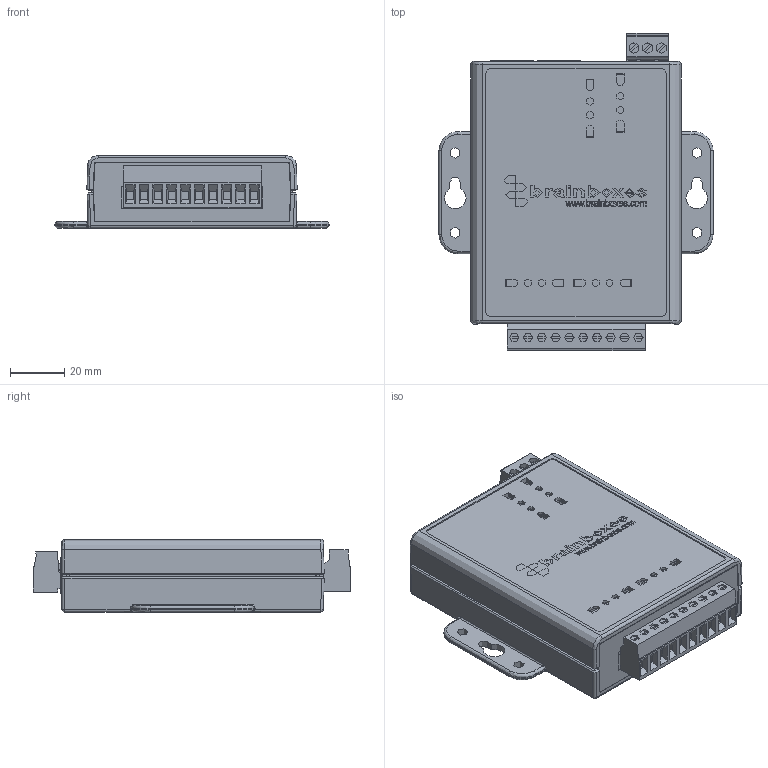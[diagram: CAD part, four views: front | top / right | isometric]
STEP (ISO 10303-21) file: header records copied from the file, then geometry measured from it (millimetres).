
FILE_DESCRIPTION(('STEP AP214'),'1');
FILE_NAME('ED-204 Cased PCB 3D Step.step','2020-12-17T14:14:31',(' '),(' '),'Spatial InterOp 3D','XD3DPlugin XRACreate',' ');
FILE_SCHEMA(('automotive_design'));
Length unit declared in the file: millimetre
Products named in the file (54): Submodel-Input_S\SMD_ELEC_D.xtd; SMD_ELEC_D; Submodel-7547UF50V_part_simplified_SMD_ELEC_D; DesignRootModel; Submodel-Input_S\50HEA2X3.xtd; 50HEA2X3; Submodel-50HEA3X2_part_simplified_H100MIL2X3; Submodel-Input_S\82HEA5MMTBX3.xtd; 82HEA5MMTBX3; Submodel-82HEA5MMTBX3_part_simplified_TB_5MM_3; Submodel-Input_S\82HEA5MMTBX10.xtd; 82HEA5MMTBX10; Submodel-82HEA5MMTBX10_part_simplified_TB_5MM_10; Submodel-Input_S\50HEA3X1.xtd; 50HEA3X1; Submodel-50HEA3X1_part_simplified_H100MIL1X3; Submodel-Input_S\00MAGJACKILED.xtd; 00MAGJACKILED; Submodel-00MAGJACKILED_part_simplified_MAGJACK_LEDS; Submodel-Input_S\6610UH5A5.xtd; 6610UH5A5; Submodel-6610UH5A5_part_simplified_SRR1260; Submodel-Input_S\40SMTBUTTON_0.xtd; 40SMTBUTTON_0; Submodel-40SMTBUTTON_part_simplified_SMTBUTTON; Submodel-Input_S\SMC.xtd; SMC; Submodel-55TZ1K5SMC36V_part_simplified_SMC; Submodel-Input_S\50HEA4X2.xtd; 50HEA4X2; Submodel-50HEA4X2_part_simplified_H100MIL2X4; uid__9223372036854780805; Submodel-AssyDefn_44; BrainboxesLogo.step; Submodel-AssyDefn_43; CamdenEndPanel.sat; Submodel-AssyDefn_42; 82PLUG5MMTBX3.sat; Submodel-AssyDefn_41; 82PLUG5MMTBX10.sat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
Assembly tree (59 placements, depth 5):
  ED-204 Cased PCB 3D Step
    DesignRootModel
      Submodel-7547UF50V_part_simplified_SMD_ELEC_D
        Submodel-Input_S\SMD_ELEC_D.xtd
          SMD_ELEC_D
      Submodel-50HEA3X2_part_simplified_H100MIL2X3  x2
        Submodel-Input_S\50HEA2X3.xtd
          50HEA2X3
      Submodel-82HEA5MMTBX3_part_simplified_TB_5MM_3
        Submodel-Input_S\82HEA5MMTBX3.xtd
          82HEA5MMTBX3
      Submodel-82HEA5MMTBX10_part_simplified_TB_5MM_10
        Submodel-Input_S\82HEA5MMTBX10.xtd
          82HEA5MMTBX10
      Submodel-50HEA3X1_part_simplified_H100MIL1X3
        Submodel-Input_S\50HEA3X1.xtd
          50HEA3X1
      Submodel-00MAGJACKILED_part_simplified_MAGJACK_LEDS  x2
        Submodel-Input_S\00MAGJACKILED.xtd
          00MAGJACKILED
      Submodel-6610UH5A5_part_simplified_SRR1260
        Submodel-Input_S\6610UH5A5.xtd
          6610UH5A5
      Submodel-40SMTBUTTON_part_simplified_SMTBUTTON
        Submodel-Input_S\40SMTBUTTON_0.xtd
          40SMTBUTTON_0
      Submodel-55TZ1K5SMC36V_part_simplified_SMC  x3
        Submodel-Input_S\SMC.xtd
          SMC
      Submodel-50HEA4X2_part_simplified_H100MIL2X4
        Submodel-Input_S\50HEA4X2.xtd
          50HEA4X2
      uid__9223372036854780805
      Submodel-AssyDefn_44  x2
        BrainboxesLogo.step
      Submodel-AssyDefn_43  x2
        CamdenEndPanel.sat
      Submodel-AssyDefn_42
        82PLUG5MMTBX3.sat
      Submodel-AssyDefn_41
        82PLUG5MMTBX10.sat
      Submodel-AssyDefn_40
        00ESUSCASELID.sat
      Submodel-AssyDefn_39
        00ESUSCASEBASE.sat
      Submodel-DATUM_2441444698_part_DATUM
        Submodel-noModelForPart_DATUM_2441444698
          placementOutline
      Submodel-TOOLINGHOLE_2821659008_part_TOOLINGHOLEA
        Submodel-noModelForPart_TOOLINGHOLE_2821659008
          placementOutline
      Submodel-REJECTMARK_3219705766_part_REJECTMARK
        Submodel-noModelForPart_REJECTMARK_3219705766
          placementOutline
Bounding box: 101 x 117.1 x 27.1 mm (x, y, z)
Volume: 79965.9 mm3; surface area: 99450.4 mm2
Topology: 170 solids, 170 shells, 9638 faces, 25186 edges, 16002 vertices
Faces by surface type: plane 7488, cylinder 1348, bspline 642, cone 75, torus 52, sphere 33
Full cylindrical faces by diameter (mm): 0.6 x2, 3.81 x1
Entity records: 247642 total; most frequent: CARTESIAN_POINT 41608, ORIENTED_EDGE 32438, DIRECTION 30497, EDGE_CURVE 16219, LINE 13115, VECTOR 13115, VERTEX_POINT 10256, AXIS2_PLACEMENT_3D 8691
